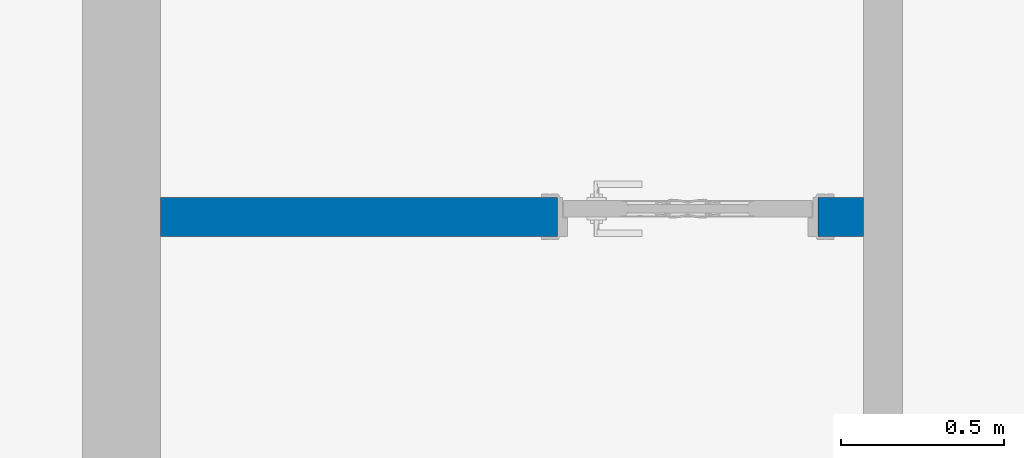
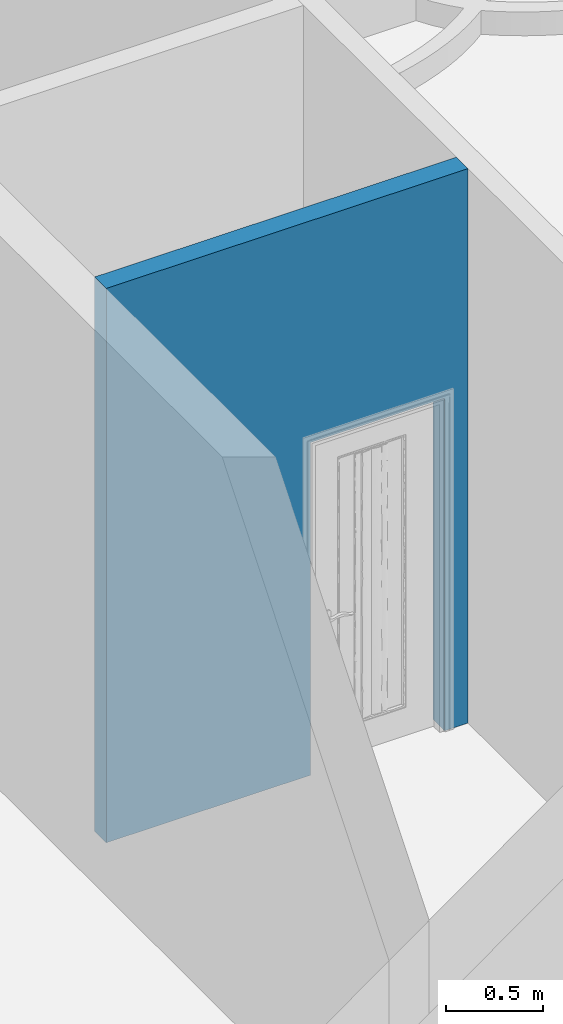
# One storey, part 10 of 24: 1 wall, 1 opening.
"""IFC2X3 building model written with IfcOpenShell, lengths in millimetres."""

from ifc_helpers import new_model, entity, si_unit, converted_unit, derived_unit, direction, frame, frame_2d, origin, place, context, subcontext, project, spatial, rectangle, extrude, material, layer, layer_set, layer_usage, type_object, element, save


model = new_model("IFC2X3")

# Units and contexts
model_context = context("Model", 3, precision=0.01, world=origin(), true_north=direction((6.12303176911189e-17, 1.0)))
body_context = subcontext(model_context, "Body", "Model", "MODEL_VIEW")
ifc_project = project(units=[si_unit("LENGTHUNIT", "METRE", prefix="MILLI"), si_unit("AREAUNIT", "SQUARE_METRE"), si_unit("VOLUMEUNIT", "CUBIC_METRE"), converted_unit("PLANEANGLEUNIT", "DEGREE", entity("IfcRatioMeasure", 0.0174532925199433), si_unit("PLANEANGLEUNIT", "RADIAN"), dimensions=[0, 0, 0, 0, 0, 0, 0]), si_unit("MASSUNIT", "GRAM", prefix="KILO"), derived_unit("MASSDENSITYUNIT", [(si_unit("MASSUNIT", "GRAM", prefix="KILO"), 1), (si_unit("LENGTHUNIT", "METRE"), -3)]), si_unit("TIMEUNIT", "SECOND"), si_unit("FREQUENCYUNIT", "HERTZ"), si_unit("THERMODYNAMICTEMPERATUREUNIT", "DEGREE_CELSIUS"), derived_unit("THERMALTRANSMITTANCEUNIT", [(si_unit("MASSUNIT", "GRAM", prefix="KILO"), 1), (si_unit("THERMODYNAMICTEMPERATUREUNIT", "KELVIN"), -1), (si_unit("TIMEUNIT", "SECOND"), -3)]), derived_unit("VOLUMETRICFLOWRATEUNIT", [(si_unit("LENGTHUNIT", "METRE"), 3), (si_unit("TIMEUNIT", "SECOND"), -1)]), si_unit("ELECTRICCURRENTUNIT", "AMPERE"), si_unit("ELECTRICVOLTAGEUNIT", "VOLT"), si_unit("POWERUNIT", "WATT"), si_unit("FORCEUNIT", "NEWTON", prefix="KILO"), si_unit("ILLUMINANCEUNIT", "LUX"), si_unit("LUMINOUSFLUXUNIT", "LUMEN"), si_unit("LUMINOUSINTENSITYUNIT", "CANDELA"), derived_unit("USERDEFINED", [(si_unit("MASSUNIT", "GRAM", prefix="KILO"), -1), (si_unit("LENGTHUNIT", "METRE"), -2), (si_unit("TIMEUNIT", "SECOND"), 3), (si_unit("LUMINOUSFLUXUNIT", "LUMEN"), 1)]), derived_unit("LINEARVELOCITYUNIT", [(si_unit("LENGTHUNIT", "METRE"), 1), (si_unit("TIMEUNIT", "SECOND"), -1)]), si_unit("PRESSUREUNIT", "PASCAL"), derived_unit("USERDEFINED", [(si_unit("LENGTHUNIT", "METRE"), -2), (si_unit("MASSUNIT", "GRAM", prefix="KILO"), 1), (si_unit("TIMEUNIT", "SECOND"), -2)])], contexts=[model_context])

# Site, building, storey
site_placement = place(None, origin())
site = spatial("IfcSite", under=ifc_project, at=site_placement, Name="表面", CompositionType="ELEMENT")
building_placement = place(site_placement, origin())
building = spatial("IfcBuilding", under=site, at=building_placement, CompositionType="ELEMENT")
storey_placement = place(building_placement, frame((0.0, 0.0, -3500.0)))
storey = spatial("IfcBuildingStorey", under=building, at=storey_placement, Name="-1F", CompositionType="ELEMENT", Elevation=-3500.0)

# Wall, opening
ifc_material_1 = material(Name="白色涂料")
ifc_layer_1 = layer(ifc_material_1, 10.0)
ifc_material_2 = material(Name="默认墙")
ifc_layer_2 = layer(ifc_material_2, 100.0)
ifc_layer_3 = layer(ifc_material_1, 10.0)
ifc_layer_set = layer_set([ifc_layer_1, ifc_layer_2, ifc_layer_3], Name="基本墙:粉刷墙120")
ifc_layer_usage = layer_usage(ifc_layer_set, "AXIS2", "NEGATIVE", 60.0)
wall_type = type_object("IfcWallType", Name="基本墙:粉刷墙120", PredefinedType="STANDARD", material=ifc_layer_set)
wall_placement = place(storey_placement, frame((-1790.24991264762, -5187.84591297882, 0.0)))
wall = element("IfcWallStandardCase", 1, at=wall_placement, inside=storey, type_object=wall_type, material=ifc_layer_usage, Name="基本墙:粉刷墙120", ObjectType="基本墙:粉刷墙120", context=body_context, shape_type="SweptSolid", body=[
    extrude(rectangle(XDim=2160.0, YDim=120.000000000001, at=frame_2d((1080.0, -2.94875235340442e-13), x_axis=(-1.0, 0.0))), origin(), (0.0, 0.0, 1.0), 3500.0),
])
opening_placement = place(wall_placement, frame((1220.0, -60.0, 0.0)))
element("IfcOpeningElement", 2, at=opening_placement, cuts=wall, Name="装饰木门:M0821:1", ObjectType="Opening", context=body_context, shape_type="SweptSolid", body=[
    extrude(rectangle(XDim=2099.99999999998, YDim=800.0, at=frame_2d((1049.99999999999, 400.0), x_axis=(1.0, 0.0))), frame((0.0, 0.0, 0.0), z_axis=(0.0, 1.0, 0.0), x_axis=(0.0, 0.0, 1.0)), (0.0, 0.0, 1.0), 120.0),
])

save(model, "model.ifc")
